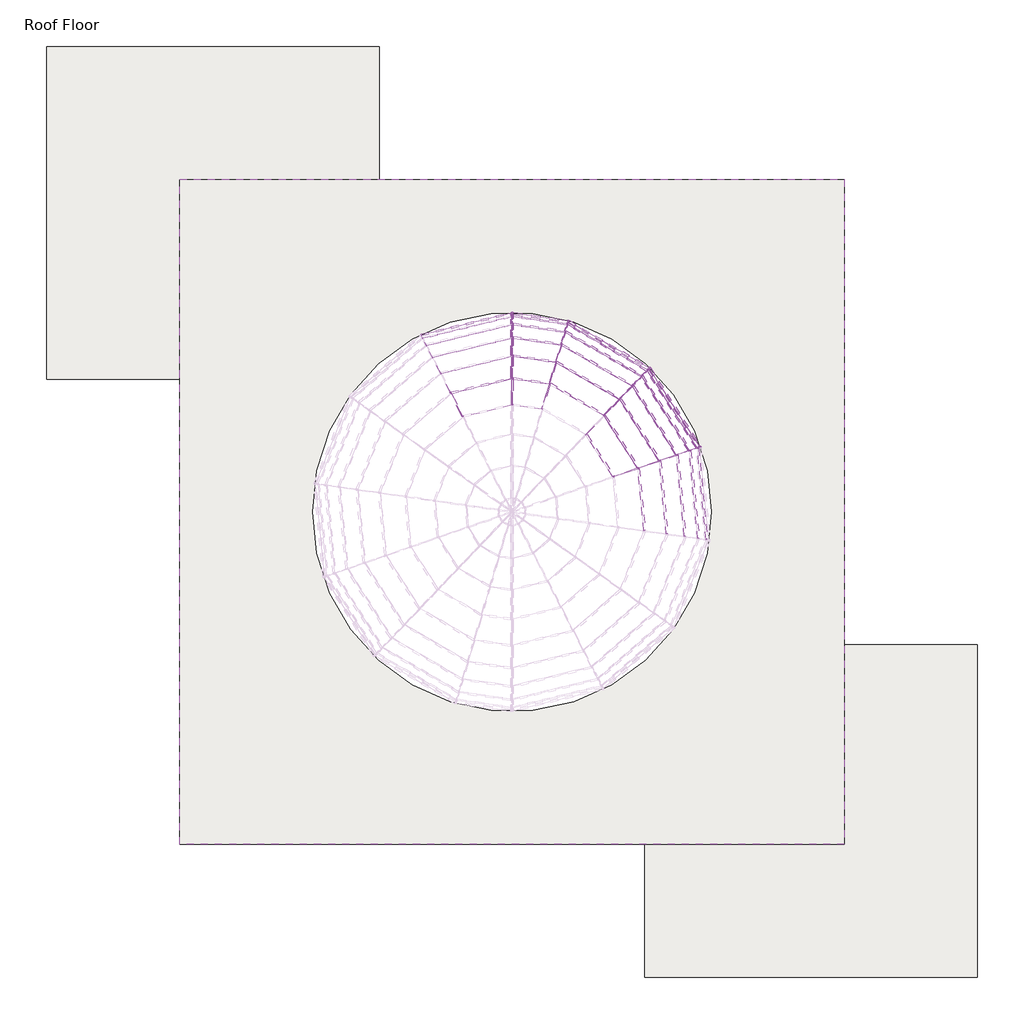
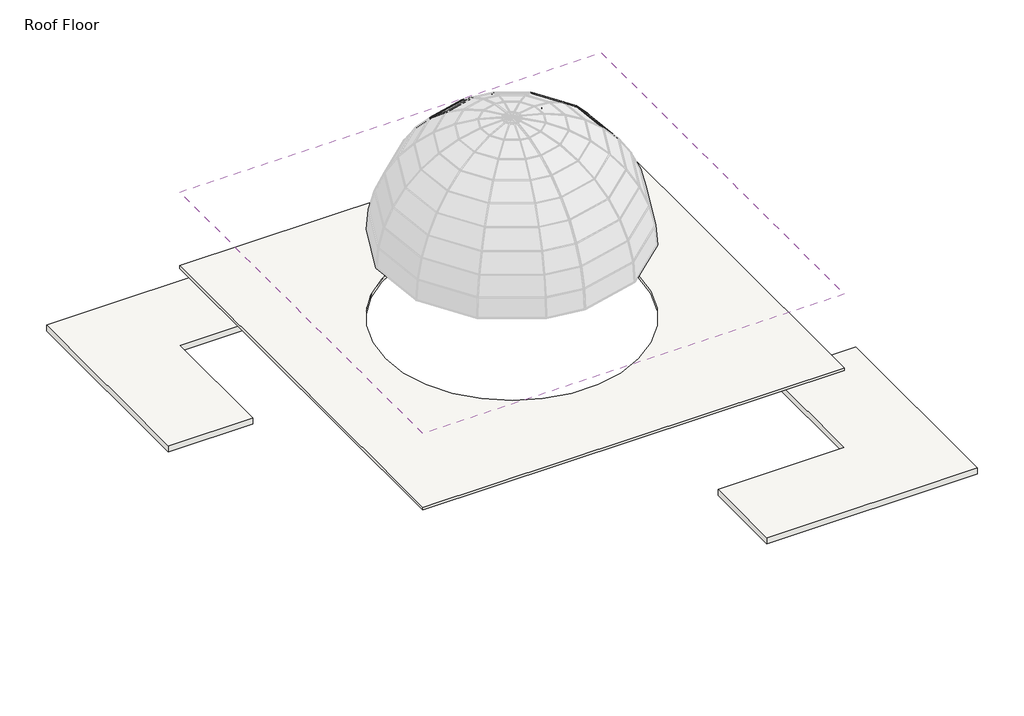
# One storey, part 5 of 5: 55 members, 23 plates, 2 roofs, 2 slabs.
"""IFC4 building model written with IfcOpenShell, lengths in millimetres."""

from ifc_helpers import new_model, si_unit, point, frame, frame_2d, origin, place, context, project, spatial, polyline, circle_curve, trimmed, segment, composite_curve, outline, extrude, transform, mapped, element, save
from components import member_a4b9d852, member_4cbb40d8, member_e5884c93, member_19e455aa, member_1644e863, member_ecfbb555, member_1f5db4fb, member_3542fcca, member_8c0c7285, member_6952dcc5, member_c3dcfc8e, member_16816f3b, member_335e9b28, member_95e271e4, member_56577a18, member_7f7bd10d, member_e03b8e9c, member_dc775c2f, member_acb6b9ec, member_e077157f, member_c4213f63, member_8ccf5568, member_51c93bb0, member_3c5b05b3, member_fd7ad58a, member_76afc974, member_c7f1f8f4, member_0ec1a058, system_panel_glazed_8f517b17, system_panel_glazed_e103372f, system_panel_glazed_d4e3dddd, system_panel_glazed_6000cac6, system_panel_glazed_c16507b5, system_panel_glazed_773f6a53, system_panel_glazed_509ce35e, system_panel_glazed_afa622ac, system_panel_glazed_fdc99001, system_panel_glazed_fc471d4c, system_panel_glazed_079f8796, system_panel_glazed_023fd094, system_panel_glazed_a1e2ecf7, system_panel_glazed_c9cd471f, system_panel_glazed_8f62df24, system_panel_glazed_f537650c, system_panel_glazed_44273b71, system_panel_glazed_6d268319

model = new_model("IFC4")

# Units and contexts
model_context = context("Model", 3, world=origin())
ifc_project = project(units=[si_unit("LENGTHUNIT", "METRE", prefix="MILLI")], contexts=[model_context])

# Site, building, storey
site = spatial("IfcSite", under=ifc_project)
building = spatial("IfcBuilding", under=site)
storey = spatial("IfcBuildingStorey", under=building, Name="Roof Floor", Elevation=15240.0)

# Members
placement = place(None, origin())
member_shape = member_a4b9d852(model_context)
element("IfcMember", 1, ObjectType="Rectangular Mullion : 1\" Square", at=placement, inside=storey, context=model_context, shape_type="MappedRepresentation", body=[
    mapped(member_shape, transform((-3865.6555486, 2046.7790077, 21675.0614442), x_axis=(0.17684502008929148, -0.7291506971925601, 0.6611089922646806), y_axis=(-0.1558248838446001, 0.6424824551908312, 0.7502898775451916), z_axis=(-0.9718253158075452, -0.23570226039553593, 0.0))),
])
member_2_shape = member_4cbb40d8(model_context)
element("IfcMember", 2, ObjectType="Rectangular Mullion : 1\" Square", at=placement, inside=storey, context=model_context, shape_type="MappedRepresentation", body=[
    mapped(member_2_shape, transform((-2445.9654175, 2901.277492, 21117.9670279), x_axis=(-0.08886370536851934, -0.6165291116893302, 0.7823011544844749), y_axis=(0.11160400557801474, 0.774299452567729, 0.6229003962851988), z_axis=(-0.9897715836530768, 0.14266117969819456, 0.0))),
])
member_3_shape = member_e5884c93(model_context)
element("IfcMember", 3, ObjectType="Rectangular Mullion : 1\" Square", at=placement, inside=storey, context=model_context, shape_type="MappedRepresentation", body=[
    mapped(member_3_shape, transform((924.03532, 474.2517773, 21117.9670279), x_axis=(-0.6270371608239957, -0.05961648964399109, 0.7767047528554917), y_axis=(0.7732178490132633, 0.0735148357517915, 0.6298648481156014), z_axis=(-0.09464965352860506, 0.9955106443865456, 0.0))),
])
element("IfcMember", 4, ObjectType="Rectangular Mullion : 1\" Square", at=placement, inside=storey, context=model_context, shape_type="MappedRepresentation", body=[
    mapped(member_3_shape, transform((15.2659687, 1900.7280925, 21117.9670279), x_axis=(-0.5300546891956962, -0.34025248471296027, 0.7767047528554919), y_axis=(0.6536259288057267, 0.41957528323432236, 0.6298648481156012), z_axis=(-0.5401991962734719, 0.8415371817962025, 0.0))),
])
element("IfcMember", 5, ObjectType="Rectangular Mullion : 1\" Square", at=placement, inside=storey, context=model_context, shape_type="MappedRepresentation", body=[
    mapped(member_3_shape, transform((-1446.0304014, 2752.3790366, 21117.9670279), x_axis=(-0.3152822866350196, -0.5452768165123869, 0.7767047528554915), y_axis=(0.38878380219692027, 0.6723967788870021, 0.6298648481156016), z_axis=(-0.8657044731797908, 0.5005554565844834, 0.0))),
])
member_4_shape = member_19e455aa(model_context)
element("IfcMember", 6, ObjectType="Rectangular Mullion : 1\" Square", at=placement, inside=storey, context=model_context, shape_type="MappedRepresentation", body=[
    mapped(member_4_shape, transform((-2445.9654175, 3321.4246649, 20482.2624164), x_axis=(-0.0690107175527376, -0.47879070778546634, 0.8752125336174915), y_axis=(0.1248588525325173, 0.8662604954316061, 0.48373858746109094), z_axis=(-0.9897715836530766, 0.14266117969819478, 0.0))),
])
member_5_shape = member_1644e863(model_context)
element("IfcMember", 7, ObjectType="Rectangular Mullion : 1\" Square", at=placement, inside=storey, context=model_context, shape_type="MappedRepresentation", body=[
    mapped(member_5_shape, transform((1321.1388108, 611.4832041, 20482.2624164), x_axis=(-0.4883347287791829, -0.04642914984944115, 0.8714204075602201), y_axis=(0.867508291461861, 0.08247963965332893, 0.4905369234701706), z_axis=(-0.09464965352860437, 0.9955106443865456, 0.0))),
])
element("IfcMember", 8, ObjectType="Rectangular Mullion : 1\" Square", at=placement, inside=storey, context=model_context, shape_type="MappedRepresentation", body=[
    mapped(member_5_shape, transform((305.3779974, 2204.6337649, 20482.2624164), x_axis=(-0.41280506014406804, -0.2649876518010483, 0.8714204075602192), y_axis=(0.7333326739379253, 0.47074060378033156, 0.4905369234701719), z_axis=(-0.5401991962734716, 0.8415371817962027, 0.0))),
])
element("IfcMember", 9, ObjectType="Rectangular Mullion : 1\" Square", at=placement, inside=storey, context=model_context, shape_type="MappedRepresentation", body=[
    mapped(member_5_shape, transform((-1327.3791745, 3155.4243607, 20482.2624164), x_axis=(-0.2455409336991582, -0.42466000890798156, 0.8714204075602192), y_axis=(0.43619423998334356, 0.7543925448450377, 0.49053692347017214), z_axis=(-0.8657044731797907, 0.5005554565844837, 0.0))),
])
member_6_shape = member_ecfbb555(model_context)
element("IfcMember", 10, ObjectType="Rectangular Mullion : 1\" Square", at=placement, inside=storey, context=model_context, shape_type="MappedRepresentation", body=[
    mapped(member_6_shape, transform((1612.935569, 712.3226236, 19785.6060711), x_axis=(-0.3344897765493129, -0.03180211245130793, 0.9418626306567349), y_axis=(0.9376342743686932, 0.08914697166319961, 0.3359981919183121), z_axis=(-0.0946496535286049, 0.9955106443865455, 0.0))),
])
element("IfcMember", 11, ObjectType="Rectangular Mullion : 1\" Square", at=placement, inside=storey, context=model_context, shape_type="MappedRepresentation", body=[
    mapped(member_6_shape, transform((518.5560516, 2427.9475661, 19785.6060711), x_axis=(-0.28275497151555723, -0.18150595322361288, 0.9418626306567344), y_axis=(0.7926124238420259, 0.5087934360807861, 0.3359981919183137), z_axis=(-0.5401991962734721, 0.8415371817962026, 0.0))),
])
element("IfcMember", 12, ObjectType="Rectangular Mullion : 1\" Square", at=placement, inside=storey, context=model_context, shape_type="MappedRepresentation", body=[
    mapped(member_6_shape, transform((-1240.1927252, 3451.5872544, 19785.6060711), x_axis=(-0.1681857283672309, -0.2908751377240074, 0.9418626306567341), y_axis=(0.47145447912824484, 0.8153746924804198, 0.33599819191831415), z_axis=(-0.8657044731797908, 0.5005554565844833, 0.0))),
])
member_7_shape = member_1f5db4fb(model_context)
element("IfcMember", 13, ObjectType="Rectangular Mullion : 1\" Square", at=placement, inside=storey, context=model_context, shape_type="MappedRepresentation", body=[
    mapped(member_7_shape, transform((-2445.9654175, 3818.8903285, 19047.3495572), x_axis=(-0.023932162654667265, -0.16603938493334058, 0.9858286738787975), y_axis=(0.1406394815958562, 0.9757452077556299, 0.16775525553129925), z_axis=(-0.9897715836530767, 0.1426611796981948, 0.0))),
])
member_8_shape = member_3542fcca(model_context)
element("IfcMember", 14, ObjectType="Rectangular Mullion : 1\" Square", at=placement, inside=storey, context=model_context, shape_type="MappedRepresentation", body=[
    mapped(member_8_shape, transform((1791.3201289, 773.9689406, 19047.3495572), x_axis=(-0.1699969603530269, -0.01616271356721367, 0.9853120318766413), y_axis=(0.9808886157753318, 0.09325944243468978, 0.1707635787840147), z_axis=(-0.09464965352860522, 0.9955106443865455, 0.0))),
])
element("IfcMember", 15, ObjectType="Rectangular Mullion : 1\" Square", at=placement, inside=storey, context=model_context, shape_type="MappedRepresentation", body=[
    mapped(member_8_shape, transform((648.8785186, 2564.4663348, 19047.3495572), x_axis=(-0.14370390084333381, -0.09224634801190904, 0.9853120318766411), y_axis=(0.8291767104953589, 0.532264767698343, 0.17076357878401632), z_axis=(-0.540199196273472, 0.8415371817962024, 0.0))),
])
element("IfcMember", 16, ObjectType="Rectangular Mullion : 1\" Square", at=placement, inside=storey, context=model_context, shape_type="MappedRepresentation", body=[
    mapped(member_8_shape, transform((-1186.8928994, 3632.6409708, 19047.3495572), x_axis=(-0.08547664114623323, -0.1478307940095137, 0.985312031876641), y_axis=(0.49320331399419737, 0.8529890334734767, 0.17076357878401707), z_axis=(-0.8657044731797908, 0.5005554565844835, 0.0))),
])
member_9_shape = member_8c0c7285(model_context)
element("IfcMember", 17, ObjectType="Rectangular Mullion : 1\" Square", at=placement, inside=storey, context=model_context, shape_type="MappedRepresentation", body=[
    mapped(member_9_shape, transform((-2445.9654175, 3630.1542173, 19785.6060711), x_axis=(-0.047160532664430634, -0.3271959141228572, 0.9437789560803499), y_axis=(0.13464061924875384, 0.9341255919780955, 0.3305771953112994), z_axis=(-0.9897715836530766, 0.14266117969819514, 0.0))),
])
member_10_shape = member_6952dcc5(model_context)
element("IfcMember", 18, ObjectType="Rectangular Mullion : 1\" Square", at=placement, inside=storey, context=model_context, shape_type="MappedRepresentation", body=[
    mapped(member_10_shape, transform((1843.2747837, 818.0402649, 18288.0), x_axis=(0.06816541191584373, 0.04375671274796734, -0.9967140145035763), y_axis=(0.8387719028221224, 0.538424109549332, 0.08100106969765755), z_axis=(0.5401991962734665, -0.8415371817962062, 0.0))),
])
element("IfcMember", 19, ObjectType="Rectangular Mullion : 1\" Square", at=placement, inside=storey, context=model_context, shape_type="MappedRepresentation", body=[
    mapped(member_10_shape, transform((674.8703533, 2627.4424597, 18288.0), x_axis=(0.04054552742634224, 0.07012298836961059, -0.9967140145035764), y_axis=(0.4989106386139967, 0.8628597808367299, 0.08100106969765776), z_axis=(0.8657044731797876, -0.500555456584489, 0.0))),
])
member_11_shape = member_c3dcfc8e(model_context)
element("IfcMember", 20, ObjectType="Rectangular Mullion : 1\" Square", at=placement, inside=storey, context=model_context, shape_type="MappedRepresentation", body=[
    mapped(member_11_shape, transform((-1192.5247936, 3701.7250911, 18288.0), x_axis=(0.011767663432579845, 0.08164308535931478, -0.996592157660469), y_axis=(0.14217501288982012, 0.986398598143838, 0.08248679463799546), z_axis=(0.9897715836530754, -0.14266117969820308, 0.0))),
])
member_12_shape = member_16816f3b(model_context)
element("IfcMember", 21, ObjectType="Rectangular Mullion : 1\" Square", at=placement, inside=storey, context=model_context, shape_type="MappedRepresentation", body=[
    mapped(member_12_shape, transform((-761.6121395, 1086.9125989, 22138.0708204), x_axis=(-0.7144526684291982, -0.4586211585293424, 0.5284165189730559), y_axis=(0.44468214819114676, 0.28545017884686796, 0.8489852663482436), z_axis=(-0.540199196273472, 0.8415371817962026, 0.0))),
])
member_13_shape = member_335e9b28(model_context)
element("IfcMember", 22, ObjectType="Rectangular Mullion : 1\" Square", at=placement, inside=storey, context=model_context, shape_type="MappedRepresentation", body=[
    mapped(member_13_shape, transform((-2445.9654175, 2381.3834534, 21675.0614442), x_axis=(-0.10617586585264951, -0.7366394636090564, 0.6678989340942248), y_axis=(0.0952832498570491, 0.6610673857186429, 0.744251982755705), z_axis=(-0.9897715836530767, 0.14266117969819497, 0.0))),
])
member_14_shape = member_95e271e4(model_context)
element("IfcMember", 23, ObjectType="Rectangular Mullion : 1\" Square", at=placement, inside=storey, context=model_context, shape_type="MappedRepresentation", body=[
    mapped(member_14_shape, transform((432.6557491, 304.4403271, 21675.0614442), x_axis=(-0.7469215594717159, -0.07101467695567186, 0.6611089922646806), y_axis=(0.658141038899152, 0.06257373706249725, 0.7502898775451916), z_axis=(-0.09464965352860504, 0.9955106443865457, 0.0))),
])
element("IfcMember", 24, ObjectType="Rectangular Mullion : 1\" Square", at=placement, inside=storey, context=model_context, shape_type="MappedRepresentation", body=[
    mapped(member_14_shape, transform((-343.7213671, 1524.6723731, 21675.0614442), x_axis=(-0.631396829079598, -0.40530598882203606, 0.6611089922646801), y_axis=(0.5563477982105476, 0.3571305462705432, 0.7502898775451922), z_axis=(-0.5401991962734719, 0.8415371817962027, 0.0))),
])
element("IfcMember", 25, ObjectType="Rectangular Mullion : 1\" Square", at=placement, inside=storey, context=model_context, shape_type="MappedRepresentation", body=[
    mapped(member_14_shape, transform((-1592.8505385, 2253.6469856, 21675.0614442), x_axis=(-0.3755616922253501, -0.6495293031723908, 0.6611089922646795), y_axis=(0.3309217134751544, 0.5723250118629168, 0.7502898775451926), z_axis=(-0.8657044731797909, 0.5005554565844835, 0.0))),
])
member_15_shape = member_56577a18(model_context)
element("IfcMember", 26, ObjectType="Rectangular Mullion : 1\" Square", at=placement, inside=storey, context=model_context, shape_type="MappedRepresentation", body=[
    mapped(member_15_shape, transform((-2495.7899787, 3880.027085, 18288.0), x_axis=(-0.01909213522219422, 0.07871889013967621, -0.9967140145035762), y_axis=(-0.2349277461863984, 0.968631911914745, 0.08100106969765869), z_axis=(0.971825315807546, 0.2357022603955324, 0.0))),
])
member_16_shape = member_7f7bd10d(model_context)
element("IfcMember", 27, ObjectType="Rectangular Mullion : 1\" Square", at=placement, inside=storey, context=model_context, shape_type="MappedRepresentation", body=[
    mapped(member_16_shape, transform((-3877.9977301, 2043.785589, 21675.0614442), x_axis=(-0.8888888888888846, -0.4581228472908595, 0.0), y_axis=(-0.27836636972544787, 0.5401100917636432, 0.794224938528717), z_axis=(-0.3638525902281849, 0.7059777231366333, -0.6076238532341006))),
])
element("IfcMember", 28, ObjectType="Rectangular Mullion : 1\" Square", at=placement, inside=storey, context=model_context, shape_type="MappedRepresentation", body=[
    mapped(member_16_shape, transform((1790.1180783, 786.6119258, 19047.3495572), x_axis=(-0.32662703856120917, 0.9451533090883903, 0.0), y_axis=(0.915702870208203, 0.3164495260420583, 0.24768518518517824), z_axis=(0.2341004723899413, 0.08090067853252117, -0.9688405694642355))),
])
element("IfcMember", 29, ObjectType="Rectangular Mullion : 1\" Square", at=placement, inside=storey, context=model_context, shape_type="MappedRepresentation", body=[
    mapped(member_16_shape, transform((1611.7335184, 724.9656087, 19785.6060711), x_axis=(-0.32662703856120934, 0.9451533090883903, 0.0), y_axis=(0.8641037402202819, 0.2986178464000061, 0.40515689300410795), z_axis=(0.382935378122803, 0.13233519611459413, -0.9142471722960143))),
])
element("IfcMember", 30, ObjectType="Rectangular Mullion : 1\" Square", at=placement, inside=storey, context=model_context, shape_type="MappedRepresentation", body=[
    mapped(member_16_shape, transform((1319.9367602, 624.1261893, 20482.2624164), x_axis=(-0.3266270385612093, 0.9451533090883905, 0.0), y_axis=(0.7885017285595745, 0.27249122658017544, 0.5513742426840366), z_axis=(0.5211331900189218, 0.1800937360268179, -0.8342580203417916))),
])
element("IfcMember", 31, ObjectType="Rectangular Mullion : 1\" Square", at=placement, inside=storey, context=model_context, shape_type="MappedRepresentation", body=[
    mapped(member_16_shape, transform((922.8332694, 486.8947624, 21117.9670279), x_axis=(-0.3266270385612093, 0.9451533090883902, 0.0), y_axis=(0.6909968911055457, 0.23879540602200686, 0.6822756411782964), z_axis=(0.6448550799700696, 0.22284967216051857, -0.7310950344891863))),
])
element("IfcMember", 32, ObjectType="Rectangular Mullion : 1\" Square", at=placement, inside=storey, context=model_context, shape_type="MappedRepresentation", body=[
    mapped(member_16_shape, transform((431.4536985, 317.0833123, 21675.0614442), x_axis=(-0.3266270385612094, 0.9451533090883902, 0.0), y_axis=(0.574297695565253, 0.19846637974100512, 0.7942249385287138), z_axis=(0.7506643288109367, 0.25941533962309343, -0.6076238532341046))),
])
element("IfcMember", 33, ObjectType="Rectangular Mullion : 1\" Square", at=placement, inside=storey, context=model_context, shape_type="MappedRepresentation", body=[
    mapped(member_16_shape, transform((642.0179888, 2575.1538571, 19047.3495572), x_axis=(-0.7233314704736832, 0.6905009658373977, 0.0), y_axis=(0.6689853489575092, 0.7007928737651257, 0.24768518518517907), z_axis=(0.17102685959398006, 0.17915848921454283, -0.9688405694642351))),
])
element("IfcMember", 34, ObjectType="Rectangular Mullion : 1\" Square", at=placement, inside=storey, context=model_context, shape_type="MappedRepresentation", body=[
    mapped(member_16_shape, transform((511.6955218, 2438.6350883, 19785.6060711), x_axis=(-0.7233314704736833, 0.6905009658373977, 0.0), y_axis=(0.6312885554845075, 0.6613037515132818, 0.4051568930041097), z_axis=(0.2797612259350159, 0.2930627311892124, -0.9142471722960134))),
])
element("IfcMember", 35, ObjectType="Rectangular Mullion : 1\" Square", at=placement, inside=storey, context=model_context, shape_type="MappedRepresentation", body=[
    mapped(member_16_shape, transform((298.5174676, 2215.3212871, 20482.2624164), x_axis=(-0.7233314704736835, 0.6905009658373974, 0.0), y_axis=(0.5760559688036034, 0.603445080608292, 0.5513742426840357), z_axis=(0.380724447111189, 0.3988263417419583, -0.8342580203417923))),
])
element("IfcMember", 36, ObjectType="Rectangular Mullion : 1\" Square", at=placement, inside=storey, context=model_context, shape_type="MappedRepresentation", body=[
    mapped(member_16_shape, transform((8.4054389, 1911.4156147, 21117.9670279), x_axis=(-0.7233314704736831, 0.6905009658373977, 0.0), y_axis=(0.5048218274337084, 0.5288240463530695, 0.6822756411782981), z_axis=(0.4711119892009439, 0.49351144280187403, -0.7310950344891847))),
])
element("IfcMember", 37, ObjectType="Rectangular Mullion : 1\" Square", at=placement, inside=storey, context=model_context, shape_type="MappedRepresentation", body=[
    mapped(member_16_shape, transform((-1197.8873462, 3638.9980251, 19047.3495572), x_axis=(-0.959295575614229, 0.2824039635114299, 0.0), y_axis=(0.273604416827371, 0.9294044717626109, 0.24768518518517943), z_axis=(0.06994727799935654, 0.2376033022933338, -0.9688405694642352))),
])
element("IfcMember", 38, ObjectType="Rectangular Mullion : 1\" Square", at=placement, inside=storey, context=model_context, shape_type="MappedRepresentation", body=[
    mapped(member_16_shape, transform((-1251.187172, 3457.9443087, 19785.6060711), x_axis=(-0.959295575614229, 0.2824039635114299, 0.0), y_axis=(0.2581870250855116, 0.8770332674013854, 0.4051568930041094), z_axis=(0.11441791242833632, 0.3886652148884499, -0.9142471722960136))),
])
element("IfcMember", 39, ObjectType="Rectangular Mullion : 1\" Square", at=placement, inside=storey, context=model_context, shape_type="MappedRepresentation", body=[
    mapped(member_16_shape, transform((-1338.3736213, 3161.781415, 20482.2624164), x_axis=(-0.9592955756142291, 0.2824039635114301, 0.0), y_axis=(0.23559777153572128, 0.8003000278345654, 0.5513742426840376), z_axis=(0.1557102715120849, 0.5289308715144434, -0.834258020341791))),
])
element("IfcMember", 40, ObjectType="Rectangular Mullion : 1\" Square", at=placement, inside=storey, context=model_context, shape_type="MappedRepresentation", body=[
    mapped(member_16_shape, transform((-1457.0248482, 2758.7360909, 21117.9670279), x_axis=(-0.9592955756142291, 0.2824039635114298, 0.0), y_axis=(0.2064641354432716, 0.7013362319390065, 0.6822756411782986), z_axis=(0.19267734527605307, 0.6545040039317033, -0.7310950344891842))),
])
element("IfcMember", 41, ObjectType="Rectangular Mullion : 1\" Square", at=placement, inside=storey, context=model_context, shape_type="MappedRepresentation", body=[
    mapped(member_16_shape, transform((-1603.8449853, 2260.0040399, 21675.0614442), x_axis=(-0.959295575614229, 0.28240396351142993, 0.0), y_axis=(0.17159538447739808, 0.582890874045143, 0.7942249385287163), z_axis=(0.22429227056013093, 0.7618964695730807, -0.6076238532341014))),
])
member_17_shape = member_e03b8e9c(model_context)
element("IfcMember", 42, ObjectType="Rectangular Mullion : 1\" Square", at=placement, inside=storey, context=model_context, shape_type="MappedRepresentation", body=[
    mapped(member_17_shape, transform((-2471.1056157, 3822.5139224, 19047.3495572), x_axis=(0.972012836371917, 0.23411060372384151, 0.019577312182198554), y_axis=(-0.2349277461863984, 0.9686319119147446, 0.08100106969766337), z_axis=(0.0, -0.08333333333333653, 0.9965217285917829))),
])
member_18_shape = member_dc775c2f(model_context)
element("IfcMember", 43, ObjectType="Rectangular Mullion : 1\" Square", at=placement, inside=storey, context=model_context, shape_type="MappedRepresentation", body=[
    mapped(member_18_shape, transform((-2471.1056157, 3633.7778113, 19785.6060711), x_axis=(0.9734856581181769, 0.22162039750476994, 0.056657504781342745), y_axis=(-0.22874805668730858, 0.9431523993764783, 0.24111797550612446), z_axis=(0.0, -0.24768518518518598, 0.9688405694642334))),
])
member_19_shape = member_acb6b9ec(model_context)
element("IfcMember", 44, ObjectType="Rectangular Mullion : 1\" Square", at=placement, inside=storey, context=model_context, shape_type="MappedRepresentation", body=[
    mapped(member_19_shape, transform((-2471.1056157, 3325.0482588, 20482.2624164), x_axis=(0.9762871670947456, 0.19791575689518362, 0.08770815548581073), y_axis=(-0.21647948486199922, 0.8925677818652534, 0.39554947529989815), z_axis=(0.0, -0.40515689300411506, 0.914247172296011))),
])
member_20_shape = member_e077157f(model_context)
element("IfcMember", 45, ObjectType="Rectangular Mullion : 1\" Square", at=placement, inside=storey, context=model_context, shape_type="MappedRepresentation", body=[
    mapped(member_20_shape, transform((-2471.1056157, 2904.9010859, 21117.9670279), x_axis=(0.9801376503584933, 0.16544871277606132, 0.10934765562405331), y_axis=(-0.1983183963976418, 0.8176876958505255, 0.5404226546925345), z_axis=(0.0, -0.5513742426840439, 0.8342580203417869))),
])
member_21_shape = member_c4213f63(model_context)
element("IfcMember", 46, ObjectType="Rectangular Mullion : 1\" Square", at=placement, inside=storey, context=model_context, shape_type="MappedRepresentation", body=[
    mapped(member_21_shape, transform((-2471.1056157, 2385.0070473, 21675.0614442), x_axis=(0.9846406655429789, 0.12764416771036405, 0.11912063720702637), y_axis=(-0.17459312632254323, 0.7198659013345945, 0.6717963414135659), z_axis=(0.0, -0.6822756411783, 0.7310950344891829))),
])
member_22_shape = member_8ccf5568(model_context)
element("IfcMember", 47, ObjectType="Rectangular Mullion : 1\" Square", at=placement, inside=storey, context=model_context, shape_type="MappedRepresentation", body=[
    mapped(member_22_shape, transform((1850.1353135, 807.3527427, 18288.0), x_axis=(-0.3266270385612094, 0.9451533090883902, 0.0), y_axis=(0.941865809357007, 0.3254909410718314, 0.08333333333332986), z_axis=(0.0787627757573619, 0.02721891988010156, -0.9965217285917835))),
])
element("IfcMember", 48, ObjectType="Rectangular Mullion : 1\" Square", at=placement, inside=storey, context=model_context, shape_type="MappedRepresentation", body=[
    mapped(member_22_shape, transform((685.8648001, 2621.0854054, 18288.0), x_axis=(-0.7233314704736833, 0.6905009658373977, 0.0), y_axis=(0.6880992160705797, 0.7208155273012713, 0.08333333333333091), z_axis=(0.05754174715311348, 0.0602776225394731, -0.9965217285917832))),
])
element("IfcMember", 49, ObjectType="Rectangular Mullion : 1\" Square", at=placement, inside=storey, context=model_context, shape_type="MappedRepresentation", body=[
    mapped(member_22_shape, transform((-1179.9546945, 3699.9132941, 18288.0), x_axis=(-0.959295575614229, 0.2824039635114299, 0.0), y_axis=(0.28142168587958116, 0.9559588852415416, 0.08333333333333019), z_axis=(0.023533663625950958, 0.07994129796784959, -0.9965217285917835))),
])
member_23_shape = member_51c93bb0(model_context)
element("IfcMember", 50, ObjectType="Rectangular Mullion : 1\" Square", at=placement, inside=storey, context=model_context, shape_type="MappedRepresentation", body=[
    mapped(member_23_shape, transform((-2471.1056157, 3886.0139224, 18288.0), x_axis=(-0.9898415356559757, 0.1416804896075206, 0.011847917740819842), y_axis=(0.14217501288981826, 0.9863985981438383, 0.08248679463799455), z_axis=(0.0, 0.08333333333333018, -0.9965217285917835))),
])
member_24_shape = member_3c5b05b3(model_context)
element("IfcMember", 51, ObjectType="Rectangular Mullion : 1\" Square", at=placement, inside=storey, context=model_context, shape_type="MappedRepresentation", body=[
    mapped(member_24_shape, transform((-2471.1056157, 3822.5139224, 19047.3495572), x_axis=(-0.9903900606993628, 0.1339928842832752, 0.034255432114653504), y_axis=(0.13830230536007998, 0.9595300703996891, 0.2453049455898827), z_axis=(0.0, 0.24768518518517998, -0.9688405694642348))),
])
member_25_shape = member_fd7ad58a(model_context)
element("IfcMember", 52, ObjectType="Rectangular Mullion : 1\" Square", at=placement, inside=storey, context=model_context, shape_type="MappedRepresentation", body=[
    mapped(member_25_shape, transform((-2471.1056157, 3633.7778113, 19785.6060711), x_axis=(-0.9914290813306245, 0.11944273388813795, 0.052932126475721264), y_axis=(0.13064599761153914, 0.9064112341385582, 0.40168432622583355), z_axis=(0.0, 0.4051568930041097, -0.9142471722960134))),
])
member_26_shape = member_76afc974(model_context)
element("IfcMember", 53, ObjectType="Rectangular Mullion : 1\" Square", at=placement, inside=storey, context=model_context, shape_type="MappedRepresentation", body=[
    mapped(member_26_shape, transform((-2471.1056157, 3325.0482588, 20482.2624164), x_axis=(-0.9928478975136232, 0.0995988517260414, 0.0658264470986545), y_axis=(0.11938614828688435, 0.8282913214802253, 0.547430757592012), z_axis=(0.0, 0.5513742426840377, -0.8342580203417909))),
])
member_27_shape = member_c7f1f8f4(model_context)
element("IfcMember", 54, ObjectType="Rectangular Mullion : 1\" Square", at=placement, inside=storey, context=model_context, shape_type="MappedRepresentation", body=[
    mapped(member_27_shape, transform((-2471.1056157, 2904.9010859, 21117.9670279), x_axis=(-0.9944936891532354, 0.07661618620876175, 0.07150008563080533), y_axis=(0.10479648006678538, 0.7270693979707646, 0.6785188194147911), z_axis=(0.0, 0.6822756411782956, -0.7310950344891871))),
])
member_28_shape = member_0ec1a058(model_context)
element("IfcMember", 55, ObjectType="Rectangular Mullion : 1\" Square", at=placement, inside=storey, context=model_context, shape_type="MappedRepresentation", body=[
    mapped(member_28_shape, transform((-2471.1056157, 2385.0070473, 21675.0614442), x_axis=(-0.9961867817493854, 0.0530128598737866, 0.06929309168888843), y_axis=(0.0872461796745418, 0.6053068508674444, 0.7911963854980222), z_axis=(0.0, 0.794224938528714, -0.6076238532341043))),
])

# Plates
system_panel_glazed_shape = system_panel_glazed_8f517b17(model_context)
element("IfcPlate", 56, ObjectType="System Panel : Glazed", at=placement, inside=storey, context=model_context, shape_type="MappedRepresentation", body=[
    mapped(system_panel_glazed_shape, transform((-3524.0617859, 3628.5174645, 18313.316536), x_axis=(-0.971825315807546, -0.23570226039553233, 0.0), y_axis=(0.2349277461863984, -0.968631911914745, -0.0810010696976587), z_axis=(0.01909213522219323, -0.07871889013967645, 0.9967140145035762))),
])
system_panel_glazed_2_shape = system_panel_glazed_e103372f(model_context)
element("IfcPlate", 57, ObjectType="System Panel : Glazed", at=placement, inside=storey, context=model_context, shape_type="MappedRepresentation", body=[
    mapped(system_panel_glazed_2_shape, transform((1266.2686553, 1713.1076536, 18313.316536), x_axis=(-0.5401991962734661, 0.8415371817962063, 0.0), y_axis=(-0.8387719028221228, -0.5384241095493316, -0.08100106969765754), z_axis=(-0.06816541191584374, -0.0437567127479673, 0.9967140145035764))),
])
element("IfcPlate", 58, ObjectType="System Panel : Glazed", at=placement, inside=storey, context=model_context, shape_type="MappedRepresentation", body=[
    mapped(system_panel_glazed_2_shape, transform((-248.0748036, 3158.7182259, 18313.316536), x_axis=(-0.8657044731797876, 0.500555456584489, 0.0), y_axis=(-0.4989106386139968, -0.8628597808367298, -0.08100106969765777), z_axis=(-0.04054552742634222, -0.0701229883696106, 0.9967140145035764))),
])
system_panel_glazed_3_shape = system_panel_glazed_d4e3dddd(model_context)
element("IfcPlate", 59, ObjectType="System Panel : Glazed", at=placement, inside=storey, context=model_context, shape_type="MappedRepresentation", body=[
    mapped(system_panel_glazed_3_shape, transform((-1819.54356, 3789.9839114, 18313.3134408), x_axis=(-0.9897715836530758, 0.14266117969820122, 0.0), y_axis=(-0.14217501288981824, -0.9863985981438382, -0.08248679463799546), z_axis=(-0.011767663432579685, -0.08164308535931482, 0.9965921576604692))),
])
system_panel_glazed_4_shape = system_panel_glazed_6000cac6(model_context)
element("IfcPlate", 60, ObjectType="System Panel : Glazed", at=placement, inside=storey, context=model_context, shape_type="MappedRepresentation", body=[
    mapped(system_panel_glazed_4_shape, transform((-3509.2889111, 3567.5665119, 19059.674854), x_axis=(-0.9718253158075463, -0.23570226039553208, 0.0), y_axis=(0.22874805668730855, -0.9431523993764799, -0.24111797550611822), z_axis=(0.05683205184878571, -0.2343245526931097, 0.9704958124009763))),
])
system_panel_glazed_5_shape = system_panel_glazed_c16507b5(model_context)
element("IfcPlate", 61, ObjectType="System Panel : Glazed", at=placement, inside=storey, context=model_context, shape_type="MappedRepresentation", body=[
    mapped(system_panel_glazed_5_shape, transform((1213.4910798, 1679.2286944, 19059.674854), x_axis=(-0.5401991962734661, 0.8415371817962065, 0.0), y_axis=(-0.8167083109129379, -0.5242610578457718, -0.24111797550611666), z_axis=(-0.2029097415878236, -0.13025173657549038, 0.9704958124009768))),
])
element("IfcPlate", 62, ObjectType="System Panel : Glazed", at=placement, inside=storey, context=model_context, shape_type="MappedRepresentation", body=[
    mapped(system_panel_glazed_5_shape, transform((-279.4674788, 3104.4249823, 19059.674854), x_axis=(-0.8657044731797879, 0.5005554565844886, 0.0), y_axis=(-0.4857869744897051, -0.8401625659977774, -0.24111797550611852), z_axis=(-0.12069291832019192, -0.2087369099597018, 0.9704958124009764))),
])
system_panel_glazed_6_shape = system_panel_glazed_773f6a53(model_context)
element("IfcPlate", 63, ObjectType="System Panel : Glazed", at=placement, inside=storey, context=model_context, shape_type="MappedRepresentation", body=[
    mapped(system_panel_glazed_6_shape, transform((-1828.6519468, 3726.7660017, 19059.661521), x_axis=(-0.9897715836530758, 0.14266117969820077, 0.0), y_axis=(-0.13830230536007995, -0.9595300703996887, -0.2453049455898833), z_axis=(-0.03499549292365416, -0.2427958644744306, 0.9694459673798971))),
])
system_panel_glazed_7_shape = system_panel_glazed_509ce35e(model_context)
element("IfcPlate", 64, ObjectType="System Panel : Glazed", at=placement, inside=storey, context=model_context, shape_type="MappedRepresentation", body=[
    mapped(system_panel_glazed_7_shape, transform((-3465.6122602, 3387.4054041, 19797.2703184), x_axis=(-0.9718253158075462, -0.23570226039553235, 0.0), y_axis=(0.21647948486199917, -0.8925677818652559, -0.3955494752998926), z_axis=(0.09323190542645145, -0.3844049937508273, 0.9184446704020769))),
])
system_panel_glazed_8_shape = system_panel_glazed_afa622ac(model_context)
element("IfcPlate", 65, ObjectType="System Panel : Glazed", at=placement, inside=storey, context=model_context, shape_type="MappedRepresentation", body=[
    mapped(system_panel_glazed_8_shape, transform((1057.4870763, 1579.0866695, 19797.2703184), x_axis=(-0.5401991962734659, 0.8415371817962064, 0.0), y_axis=(-0.7729053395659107, -0.49614307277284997, -0.39554947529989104), z_axis=(-0.33286959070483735, -0.21367550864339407, 0.9184446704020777))),
])
element("IfcPlate", 66, ObjectType="System Panel : Glazed", at=placement, inside=storey, context=model_context, shape_type="MappedRepresentation", body=[
    mapped(system_panel_glazed_8_shape, transform((-372.2603546, 2943.9408508, 19797.2703184), x_axis=(-0.8657044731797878, 0.5005554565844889, 0.0), y_axis=(-0.45973249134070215, -0.7951016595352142, -0.39554947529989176), z_axis=(-0.19799444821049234, -0.3424289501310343, 0.9184446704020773))),
])
system_panel_glazed_9_shape = system_panel_glazed_fdc99001(model_context)
element("IfcPlate", 67, ObjectType="System Panel : Glazed", at=placement, inside=storey, context=model_context, shape_type="MappedRepresentation", body=[
    mapped(system_panel_glazed_9_shape, transform((-1855.5785897, 3539.9044327, 19797.2364542), x_axis=(-0.9897715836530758, 0.14266117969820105, 0.0), y_axis=(-0.1306459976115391, -0.9064112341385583, -0.40168432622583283), z_axis=(-0.05730475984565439, -0.3975757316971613, 0.9157781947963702))),
])
system_panel_glazed_10_shape = system_panel_glazed_fc471d4c(model_context)
element("IfcPlate", 68, ObjectType="System Panel : Glazed", at=placement, inside=storey, context=model_context, shape_type="MappedRepresentation", body=[
    mapped(system_panel_glazed_10_shape, transform((-3394.4850139, 3094.0335122, 20492.9481164), x_axis=(-0.971825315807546, -0.2357022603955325, 0.0), y_axis=(0.19831839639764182, -0.8176876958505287, -0.5404226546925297), z_axis=(0.12737884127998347, -0.5251964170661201, 0.8413936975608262))),
])
system_panel_glazed_11_shape = system_panel_glazed_079f8796(model_context)
element("IfcPlate", 69, ObjectType="System Panel : Glazed", at=placement, inside=storey, context=model_context, shape_type="MappedRepresentation", body=[
    mapped(system_panel_glazed_11_shape, transform((803.4513348, 1416.0161525, 20492.9481164), x_axis=(-0.540199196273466, 0.8415371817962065, 0.0), y_axis=(-0.7080640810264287, -0.45452019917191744, -0.5404226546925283), z_axis=(-0.45478575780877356, -0.2919358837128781, 0.8413936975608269))),
])
element("IfcPlate", 70, ObjectType="System Panel : Glazed", at=placement, inside=storey, context=model_context, shape_type="MappedRepresentation", body=[
    mapped(system_panel_glazed_11_shape, transform((-523.363573, 2682.6097029, 20492.9481164), x_axis=(-0.8657044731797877, 0.500555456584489, 0.0), y_axis=(-0.4211642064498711, -0.7283982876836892, -0.5404226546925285), z_axis=(-0.2705115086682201, -0.46784630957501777, 0.8413936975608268))),
])
system_panel_glazed_12_shape = system_panel_glazed_023fd094(model_context)
element("IfcPlate", 71, ObjectType="System Panel : Glazed", at=placement, inside=storey, context=model_context, shape_type="MappedRepresentation", body=[
    mapped(system_panel_glazed_12_shape, transform((-1899.4268678, 3235.6248639, 20492.8904239), x_axis=(-0.9897715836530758, 0.1426611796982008, 0.0), y_axis=(-0.11938614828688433, -0.8282913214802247, -0.5474307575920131), z_axis=(-0.07809711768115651, -0.5418314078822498, 0.8368509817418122))),
])
system_panel_glazed_13_shape = system_panel_glazed_a1e2ecf7(model_context)
element("IfcPlate", 72, ObjectType="System Panel : Glazed", at=placement, inside=storey, context=model_context, shape_type="MappedRepresentation", body=[
    mapped(system_panel_glazed_13_shape, transform((-3297.880842, 2695.5994759, 21127.3743739), x_axis=(-0.971825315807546, -0.23570226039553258, 0.0), y_axis=(0.1745931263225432, -0.7198659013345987, -0.6717963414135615), z_axis=(0.15834391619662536, -0.6528686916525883, 0.7407359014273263))),
])
system_panel_glazed_14_shape = system_panel_glazed_c9cd471f(model_context)
element("IfcPlate", 73, ObjectType="System Panel : Glazed", at=placement, inside=storey, context=model_context, shape_type="MappedRepresentation", body=[
    mapped(system_panel_glazed_14_shape, transform((458.4395159, 1194.5463098, 21127.3743739), x_axis=(-0.540199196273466, 0.8415371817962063, 0.0), y_axis=(-0.6233568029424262, -0.4001449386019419, -0.6717963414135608), z_axis=(-0.565341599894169, -0.3629038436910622, 0.7407359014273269))),
])
element("IfcPlate", 74, ObjectType="System Panel : Glazed", at=placement, inside=storey, context=model_context, shape_type="MappedRepresentation", body=[
    mapped(system_panel_glazed_14_shape, transform((-728.5803505, 2327.6898237, 21127.3743739), x_axis=(-0.8657044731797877, 0.500555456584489, 0.0), y_axis=(-0.37077939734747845, -0.6412583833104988, -0.6717963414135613), z_axis=(-0.3362713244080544, -0.5815770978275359, 0.7407359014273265))),
])
system_panel_glazed_15_shape = system_panel_glazed_8f62df24(model_context)
element("IfcPlate", 75, ObjectType="System Panel : Glazed", at=placement, inside=storey, context=model_context, shape_type="MappedRepresentation", body=[
    mapped(system_panel_glazed_15_shape, transform((-1958.9795354, 2822.3793192, 21127.2962322), x_axis=(-0.9897715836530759, 0.14266117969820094, 0.0), y_axis=(-0.10479648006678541, -0.7270693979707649, -0.678518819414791), z_axis=(-0.09679829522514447, -0.671578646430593, 0.734583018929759))),
])
system_panel_glazed_16_shape = system_panel_glazed_f537650c(model_context)
element("IfcPlate", 76, ObjectType="System Panel : Glazed", at=placement, inside=storey, context=model_context, shape_type="MappedRepresentation", body=[
    mapped(system_panel_glazed_16_shape, transform((-3178.4817773, 2203.1749472, 21682.9171425), x_axis=(-0.9718253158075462, -0.23570226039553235, 0.0), y_axis=(0.14579573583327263, -0.601131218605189, -0.7857384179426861), z_axis=(0.18520032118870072, -0.7636004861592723, 0.618558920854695))),
])
system_panel_glazed_17_shape = system_panel_glazed_44273b71(model_context)
element("IfcPlate", 77, ObjectType="System Panel : Glazed", at=placement, inside=storey, context=model_context, shape_type="MappedRepresentation", body=[
    mapped(system_panel_glazed_17_shape, transform((32.038304, 920.8310219, 21682.9171425), x_axis=(-0.5401991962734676, 0.8415371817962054, 0.0), y_axis=(-0.5205403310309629, -0.33414503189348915, -0.7857384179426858), z_axis=(-0.6612280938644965, -0.4244552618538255, 0.6185589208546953))),
])
system_panel_glazed_18_shape = system_panel_glazed_6d268319(model_context)
element("IfcPlate", 78, ObjectType="System Panel : Glazed", at=placement, inside=storey, context=model_context, shape_type="MappedRepresentation", body=[
    mapped(system_panel_glazed_18_shape, transform((-2032.5830017, 2311.6483566, 21682.8282837), x_axis=(-0.9897715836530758, 0.14266117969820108, 0.0), y_axis=(-0.08724617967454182, -0.6053068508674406, -0.7911963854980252), z_axis=(-0.11287300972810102, -0.7831036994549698, 0.6115621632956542))),
])

# Roofs
element("IfcRoof", 79, ObjectType="Generic - 9\"", at=placement, inside=storey, context=model_context, shape_type="SweptSolid", body=[
    extrude(outline(polyline([(5148.8943843, 6934.0139224), (5148.8943843, -8305.9860776), (-10091.1056157, -8305.9860776), (-10091.1056157, 6934.0139224), (5148.8943843, 6934.0139224)]), holes=[composite_curve([segment(trimmed(circle_curve(frame_2d((-2471.1056157, -685.9860776)), 4572.0), [point((2100.8943843, -685.9860776))], [point((-7043.1056157, -685.9860776))], True, "CARTESIAN"), True, "CONTINUOUS"), segment(trimmed(circle_curve(frame_2d((-2471.1056157, -685.9860776)), 4572.0), [point((-7043.1056157, -685.9860776))], [point((2100.8943843, -685.9860776))], True, "CARTESIAN"), True, "CONTINUOUS")], self_intersect=False)]), frame((0.0, 0.0, 18059.4), z_axis=(0.0, 0.0, 1.0), x_axis=(1.0, 0.0, 0.0)), (0.0, 0.0, 1.0), 228.6),
])
element("IfcRoof", 80, ObjectType="Generic - 9\"", at=placement, inside=storey, context=model_context, shape_type="SweptSolid", body=[
    extrude(outline(polyline([(8196.8943843, -3733.9860776), (8196.8943843, -11353.9860776), (576.8943843, -11353.9860776), (576.8943843, -8305.9860776), (5148.8943843, -8305.9860776), (5148.8943843, -3733.9860776), (8196.8943843, -3733.9860776)])), frame((0.0, 0.0, 11963.4), z_axis=(0.0, 0.0, 1.0), x_axis=(1.0, 0.0, 0.0)), (0.0, 0.0, 1.0), 228.6),
    extrude(outline(polyline([(-5519.1056157, 9982.0139224), (-5519.1056157, 6934.0139224), (-10091.1056157, 6934.0139224), (-10091.1056157, 2362.0139224), (-13139.1056157, 2362.0139224), (-13139.1056157, 9982.0139224), (-5519.1056157, 9982.0139224)])), frame((0.0, 0.0, 11963.4), z_axis=(0.0, 0.0, 1.0), x_axis=(1.0, 0.0, 0.0)), (0.0, 0.0, 1.0), 228.6),
])

# Slabs
element("IfcSlab", 81, ObjectType="LW Concrete on Metal Deck", at=placement, inside=storey, context=model_context, shape_type="SweptSolid", body=[
    extrude(outline(polyline([(5148.8943843, 6934.0139224), (5148.8943843, -8305.9860776), (-10091.1056157, -8305.9860776), (-10091.1056157, 6934.0139224), (5148.8943843, 6934.0139224)]), holes=[composite_curve([segment(trimmed(circle_curve(frame_2d((-2471.1056157, -685.9860776)), 4572.0), [point((2100.8943843, -685.9860776))], [point((-7043.1056157, -685.9860776))], True, "CARTESIAN"), True, "CONTINUOUS"), segment(trimmed(circle_curve(frame_2d((-2471.1056157, -685.9860776)), 4572.0), [point((-7043.1056157, -685.9860776))], [point((2100.8943843, -685.9860776))], True, "CARTESIAN"), True, "CONTINUOUS")], self_intersect=False)]), frame((0.0, 0.0, 15135.225), z_axis=(0.0, 0.0, 1.0), x_axis=(1.0, 0.0, 0.0)), (0.0, 0.0, 1.0), 104.775),
])
element("IfcSlab", 82, ObjectType="LW Concrete on Metal Deck", at=placement, inside=storey, context=model_context, shape_type="SweptSolid", body=[
    extrude(outline(polyline([(5148.8943843, 6934.0139224), (5148.8943843, -8305.9860776), (-10091.1056157, -8305.9860776), (-10091.1056157, 6934.0139224), (5148.8943843, 6934.0139224)]), holes=[composite_curve([segment(trimmed(circle_curve(frame_2d((-2471.1056157, -685.9860776)), 4572.0), [point((2100.8943843, -685.9860776))], [point((-7043.1056157, -685.9860776))], True, "CARTESIAN"), True, "CONTINUOUS"), segment(trimmed(circle_curve(frame_2d((-2471.1056157, -685.9860776)), 4572.0), [point((-7043.1056157, -685.9860776))], [point((2100.8943843, -685.9860776))], True, "CARTESIAN"), True, "CONTINUOUS")], self_intersect=False)]), frame((0.0, 0.0, 15135.225), z_axis=(0.0, 0.0, 1.0), x_axis=(1.0, 0.0, 0.0)), (0.0, 0.0, 1.0), 104.775),
])

save(model, "model.ifc")
